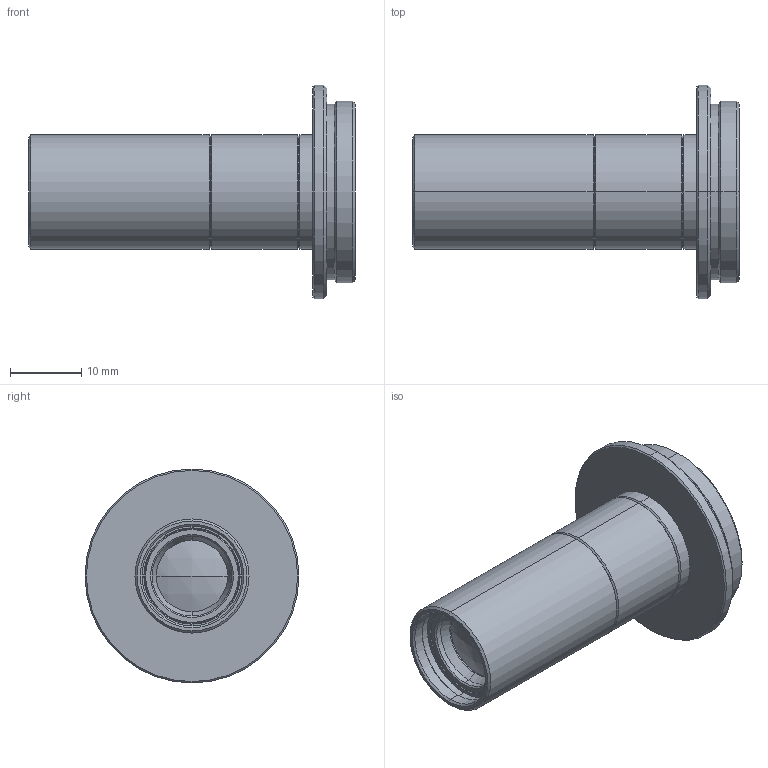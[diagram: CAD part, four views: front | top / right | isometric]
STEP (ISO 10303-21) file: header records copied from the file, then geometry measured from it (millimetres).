
FILE_DESCRIPTION (( 'STEP AP203' ), '1' );
FILE_NAME ('MC075-50.STEP', '2014-06-27T04:14:00', ( '' ), ( '' ), 'SwSTEP 2.0', 'SolidWorks 2014', '' );
FILE_SCHEMA (( 'CONFIG_CONTROL_DESIGN' ));
Length unit declared in the file: millimetre
Products named in the file (1): MC075-50
Bounding box: 45.83 x 30 x 30 mm (x, y, z)
Volume: 6834.8 mm3; surface area: 5342.8 mm2
Topology: 1 solids, 1 shells, 100 faces, 202 edges, 116 vertices
Faces by surface type: cone 52, cylinder 32, plane 12, sphere 4
Entity records: 2673 total; most frequent: DIRECTION 522, CARTESIAN_POINT 419, ORIENTED_EDGE 404, AXIS2_PLACEMENT_3D 219, EDGE_CURVE 202, CIRCLE 118, VERTEX_POINT 116, EDGE_LOOP 112
